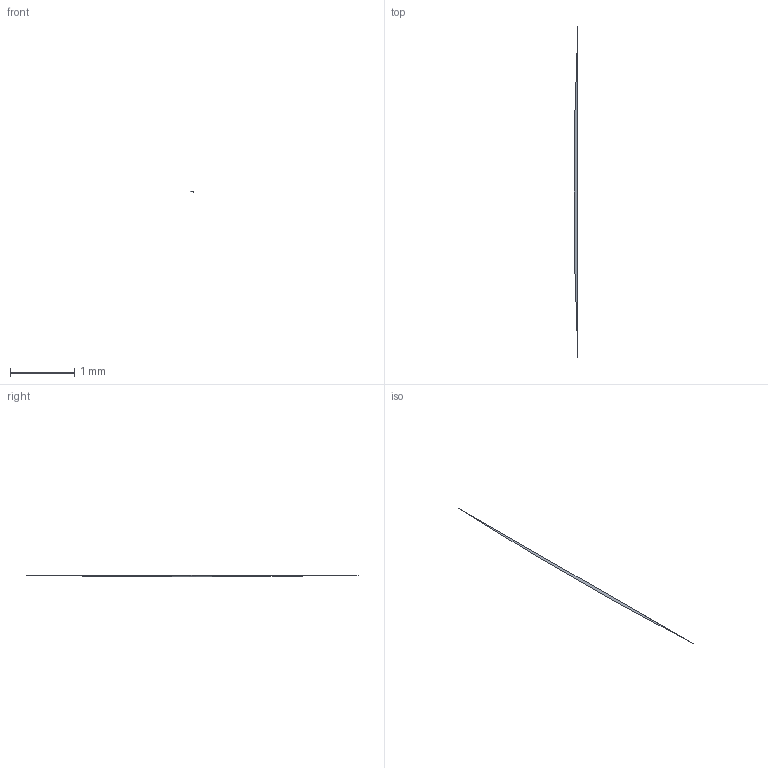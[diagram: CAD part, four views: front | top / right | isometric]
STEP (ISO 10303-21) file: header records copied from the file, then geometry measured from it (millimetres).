
FILE_DESCRIPTION(/* description */ ('STEP AP242 Edition 2','CAx-IF Rec.Pracs.---Representation and Presentation of Product Manufacturing Information (PMI)---4.0---2014-10-13','CAx-IF Rec.Pracs.---3D Tessellated Geometry---0.4---2014-09-14','2;1','CAx-IF Rec.Pracs.---User Defined Attributes---1.5---2016-08-15'),/* implementation_level */ '2;1');
FILE_NAME(/* name */ 'Part Studio 1 - Part 7',/* time_stamp */ '2026-10-19T00:09:51Z',/* author */ (''),/* organization */ (''),/* preprocessor_version */ 'ST-DEVELOPER v20',/* originating_system */ 'ONSHAPE BY PTC INC, 1.222',/* authorisation */ ' ');
FILE_SCHEMA (('AP242_MANAGED_MODEL_BASED_3D_ENGINEERING_MIM_LF { 1 0 10303 442 3 1 4 }'));
Length unit declared in the file: metre
Products named in the file (1): Part 7
Bounding box: 0.06 x 5.18 x 0.02 mm (x, y, z)
Volume: 0 mm3; surface area: 0.5 mm2
Topology: 1 solids, 1 shells, 3 faces, 3 edges, 2 vertices
Faces by surface type: plane 2, cone 1
Entity records: 81 total; most frequent: CARTESIAN_POINT 12, DIRECTION 11, ORIENTED_EDGE 6, AXIS2_PLACEMENT_3D 5, EDGE_CURVE 3, EDGE_LOOP 3, FACE_BOUND 3, ADVANCED_FACE 3
